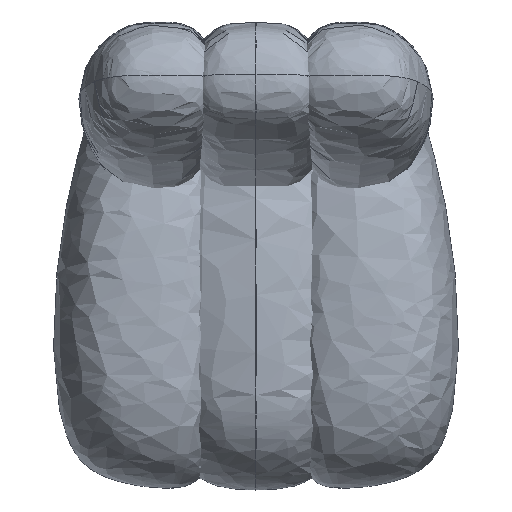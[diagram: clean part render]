
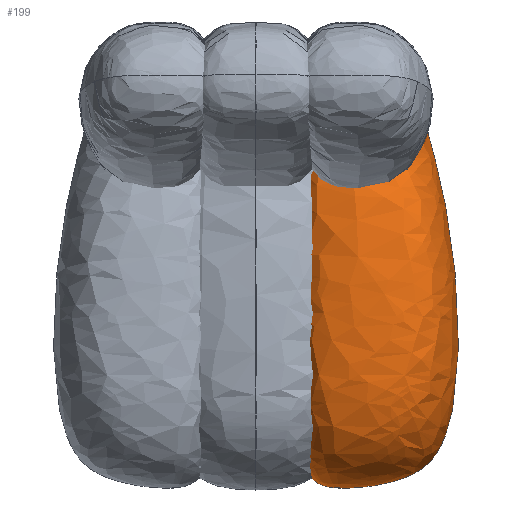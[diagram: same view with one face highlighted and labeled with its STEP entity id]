
A CAD part, top view. The second image highlights one B-rep face of the part: STEP entity #199.
In plain terms, the highlighted free-form (B-spline) face has degree [3, 3] with [8, 10] control points.
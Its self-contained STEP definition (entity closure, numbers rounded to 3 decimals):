
#199=ADVANCED_FACE('',(#229),#509,.T.);
#229=FACE_OUTER_BOUND('',#259,.T.);
#259=EDGE_LOOP('',(#317,#318));
#317=ORIENTED_EDGE('',*,*,#398,.T.);
#318=ORIENTED_EDGE('',*,*,#397,.F.);
#397=EDGE_CURVE('',#479,#480,#451,.T.);
#398=EDGE_CURVE('',#479,#480,#452,.T.);
#451=B_SPLINE_CURVE_WITH_KNOTS('',3,(#2768,#2769,#2770,#2771,#2772,#2773,
#2774,#2775,#2776,#2777),.UNSPECIFIED.,.F.,.F.,(4,1,1,1,1,1,1,4),(0.,1.,
2.,3.,4.,5.,6.,7.),.UNSPECIFIED.);
#452=B_SPLINE_CURVE_WITH_KNOTS('',3,(#2778,#2779,#2780,#2781,#2782,#2783,
#2784,#2785,#2786,#2787),.UNSPECIFIED.,.F.,.F.,(4,1,1,1,1,1,1,4),(0.,1.,
2.,3.,4.,5.,6.,7.),.UNSPECIFIED.);
#479=VERTEX_POINT('',#2766);
#480=VERTEX_POINT('',#2767);
#509=B_SPLINE_SURFACE_WITH_KNOTS('',3,3,((#2606,#2607,#2608,#2609,#2610,
#2611,#2612,#2613,#2614,#2615),(#2616,#2617,#2618,#2619,#2620,#2621,#2622,
#2623,#2624,#2625),(#2626,#2627,#2628,#2629,#2630,#2631,#2632,#2633,#2634,
#2635),(#2636,#2637,#2638,#2639,#2640,#2641,#2642,#2643,#2644,#2645),(#2646,
#2647,#2648,#2649,#2650,#2651,#2652,#2653,#2654,#2655),(#2656,#2657,#2658,
#2659,#2660,#2661,#2662,#2663,#2664,#2665),(#2666,#2667,#2668,#2669,#2670,
#2671,#2672,#2673,#2674,#2675),(#2676,#2677,#2678,#2679,#2680,#2681,#2682,
#2683,#2684,#2685)),.UNSPECIFIED.,.F.,.F.,.F.,(4,1,1,1,1,4),(4,1,1,1,1,
1,1,4),(0.,1.,2.,3.,4.,5.),(0.,1.,2.,3.,4.,5.,6.,7.),.UNSPECIFIED.);
#2606=CARTESIAN_POINT('',(12579.869,-1421.,440.547));
#2607=CARTESIAN_POINT('',(12614.142,-1420.747,440.547));
#2608=CARTESIAN_POINT('',(12706.651,-1444.19,438.417));
#2609=CARTESIAN_POINT('',(12728.56,-1526.51,486.111));
#2610=CARTESIAN_POINT('',(12766.597,-1673.037,505.845));
#2611=CARTESIAN_POINT('',(12786.901,-1897.785,517.257));
#2612=CARTESIAN_POINT('',(12760.258,-2071.993,518.316));
#2613=CARTESIAN_POINT('',(12691.383,-2122.254,521.095));
#2614=CARTESIAN_POINT('',(12614.142,-2133.938,529.914));
#2615=CARTESIAN_POINT('',(12579.869,-2133.684,530.477));
#2616=CARTESIAN_POINT('',(12579.869,-1421.,440.547));
#2617=CARTESIAN_POINT('',(12614.142,-1420.747,449.189));
#2618=CARTESIAN_POINT('',(12711.443,-1454.164,466.229));
#2619=CARTESIAN_POINT('',(12728.142,-1529.448,531.786));
#2620=CARTESIAN_POINT('',(12767.233,-1667.53,560.215));
#2621=CARTESIAN_POINT('',(12788.312,-1897.785,573.662));
#2622=CARTESIAN_POINT('',(12759.64,-2071.203,571.465));
#2623=CARTESIAN_POINT('',(12693.493,-2122.254,554.214));
#2624=CARTESIAN_POINT('',(12614.142,-2133.938,536.395));
#2625=CARTESIAN_POINT('',(12579.869,-2133.684,530.477));
#2626=CARTESIAN_POINT('',(12579.869,-1421.,440.547));
#2627=CARTESIAN_POINT('',(12604.745,-1420.747,466.473));
#2628=CARTESIAN_POINT('',(12696.174,-1454.164,517.591));
#2629=CARTESIAN_POINT('',(12686.108,-1529.448,609.865));
#2630=CARTESIAN_POINT('',(12738.865,-1645.503,669.924));
#2631=CARTESIAN_POINT('',(12755.263,-1897.785,682.128));
#2632=CARTESIAN_POINT('',(12709.385,-2043.293,659.427));
#2633=CARTESIAN_POINT('',(12666.455,-2115.621,604.307));
#2634=CARTESIAN_POINT('',(12604.745,-2133.938,548.23));
#2635=CARTESIAN_POINT('',(12579.869,-2133.684,530.477));
#2636=CARTESIAN_POINT('',(12579.869,-1421.,440.547));
#2637=CARTESIAN_POINT('',(12588.442,-1420.747,473.168));
#2638=CARTESIAN_POINT('',(12605.345,-1454.164,537.486));
#2639=CARTESIAN_POINT('',(12623.046,-1529.448,643.583));
#2640=CARTESIAN_POINT('',(12661.924,-1640.264,694.493));
#2641=CARTESIAN_POINT('',(12669.635,-1897.785,706.612));
#2642=CARTESIAN_POINT('',(12656.628,-2037.348,687.715));
#2643=CARTESIAN_POINT('',(12605.345,-2115.621,624.201));
#2644=CARTESIAN_POINT('',(12588.442,-2133.938,554.925));
#2645=CARTESIAN_POINT('',(12579.869,-2133.684,530.477));
#2646=CARTESIAN_POINT('',(12579.869,-1421.,440.547));
#2647=CARTESIAN_POINT('',(12571.297,-1420.747,473.168));
#2648=CARTESIAN_POINT('',(12554.394,-1454.164,537.486));
#2649=CARTESIAN_POINT('',(12548.722,-1529.448,643.583));
#2650=CARTESIAN_POINT('',(12548.104,-1640.264,690.823));
#2651=CARTESIAN_POINT('',(12548.104,-1897.785,702.942));
#2652=CARTESIAN_POINT('',(12548.722,-2037.348,687.715));
#2653=CARTESIAN_POINT('',(12565.832,-2115.621,624.201));
#2654=CARTESIAN_POINT('',(12571.297,-2133.938,554.925));
#2655=CARTESIAN_POINT('',(12579.869,-2133.684,530.477));
#2656=CARTESIAN_POINT('',(12579.869,-1421.,440.547));
#2657=CARTESIAN_POINT('',(12554.994,-1420.747,466.473));
#2658=CARTESIAN_POINT('',(12519.246,-1454.164,517.591));
#2659=CARTESIAN_POINT('',(12508.236,-1529.448,609.865));
#2660=CARTESIAN_POINT('',(12498.838,-1650.48,650.332));
#2661=CARTESIAN_POINT('',(12498.838,-1897.785,662.45));
#2662=CARTESIAN_POINT('',(12519.971,-2037.348,653.997));
#2663=CARTESIAN_POINT('',(12542.998,-2115.621,604.307));
#2664=CARTESIAN_POINT('',(12554.994,-2133.938,548.23));
#2665=CARTESIAN_POINT('',(12579.869,-2133.684,530.477));
#2666=CARTESIAN_POINT('',(12579.869,-1421.,440.547));
#2667=CARTESIAN_POINT('',(12545.597,-1420.747,449.189));
#2668=CARTESIAN_POINT('',(12491.321,-1454.164,466.229));
#2669=CARTESIAN_POINT('',(12460.908,-1529.448,531.786));
#2670=CARTESIAN_POINT('',(12431.488,-1669.189,553.685));
#2671=CARTESIAN_POINT('',(12431.488,-1897.785,567.102));
#2672=CARTESIAN_POINT('',(12501.869,-2043.703,569.655));
#2673=CARTESIAN_POINT('',(12515.073,-2115.621,554.214));
#2674=CARTESIAN_POINT('',(12545.597,-2133.938,536.395));
#2675=CARTESIAN_POINT('',(12579.869,-2133.684,530.477));
#2676=CARTESIAN_POINT('',(12579.869,-1421.,440.547));
#2677=CARTESIAN_POINT('',(12545.597,-1420.747,440.547));
#2678=CARTESIAN_POINT('',(12489.105,-1444.19,438.417));
#2679=CARTESIAN_POINT('',(12458.691,-1526.51,486.111));
#2680=CARTESIAN_POINT('',(12426.643,-1673.867,502.579));
#2681=CARTESIAN_POINT('',(12426.643,-1897.785,513.978));
#2682=CARTESIAN_POINT('',(12499.652,-2045.484,517.411));
#2683=CARTESIAN_POINT('',(12512.857,-2115.621,521.095));
#2684=CARTESIAN_POINT('',(12545.597,-2133.938,529.914));
#2685=CARTESIAN_POINT('',(12579.869,-2133.684,530.477));
#2766=CARTESIAN_POINT('',(12579.869,-1421.,440.547));
#2767=CARTESIAN_POINT('',(12579.869,-2133.684,530.477));
#2768=CARTESIAN_POINT('',(12579.869,-1421.,440.547));
#2769=CARTESIAN_POINT('',(12614.142,-1420.747,440.547));
#2770=CARTESIAN_POINT('',(12706.651,-1444.19,438.417));
#2771=CARTESIAN_POINT('',(12728.56,-1526.51,486.111));
#2772=CARTESIAN_POINT('',(12766.597,-1673.037,505.845));
#2773=CARTESIAN_POINT('',(12786.901,-1897.785,517.257));
#2774=CARTESIAN_POINT('',(12760.258,-2071.993,518.316));
#2775=CARTESIAN_POINT('',(12691.383,-2122.254,521.095));
#2776=CARTESIAN_POINT('',(12614.142,-2133.938,529.914));
#2777=CARTESIAN_POINT('',(12579.869,-2133.684,530.477));
#2778=CARTESIAN_POINT('',(12579.869,-1421.,440.547));
#2779=CARTESIAN_POINT('',(12545.597,-1420.747,440.547));
#2780=CARTESIAN_POINT('',(12489.105,-1444.19,438.417));
#2781=CARTESIAN_POINT('',(12458.691,-1526.51,486.111));
#2782=CARTESIAN_POINT('',(12426.643,-1673.867,502.579));
#2783=CARTESIAN_POINT('',(12426.643,-1897.785,513.978));
#2784=CARTESIAN_POINT('',(12499.652,-2045.484,517.411));
#2785=CARTESIAN_POINT('',(12512.857,-2115.621,521.095));
#2786=CARTESIAN_POINT('',(12545.597,-2133.938,529.914));
#2787=CARTESIAN_POINT('',(12579.869,-2133.684,530.477));
